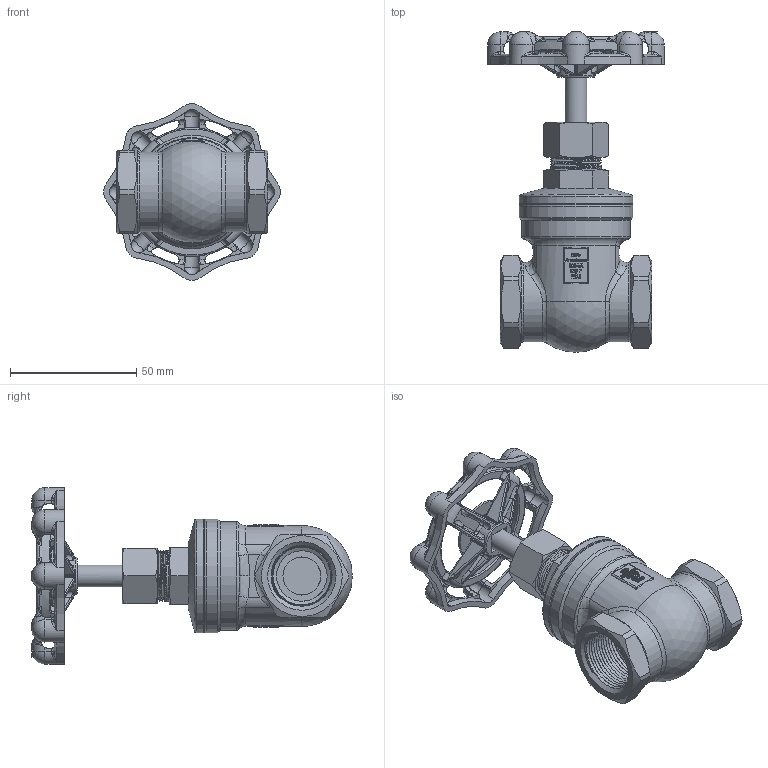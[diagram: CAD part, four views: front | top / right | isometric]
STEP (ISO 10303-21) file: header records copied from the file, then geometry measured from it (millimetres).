
FILE_DESCRIPTION((''),'2;1');
FILE_NAME('K:\Inventor\1 Artikel\8) Absperrschieber\Haitima\508-VA, 2029\508-VA, G0,75\508-VA, G0,75, 3D\508-VA, G0,75, PN15, 3D.stp','2020-02-18T14:27:57',('claudia'),(''),'Autodesk Inventor 2013','Autodesk Inventor 2013','');
FILE_SCHEMA(('AUTOMOTIVE_DESIGN { 1 0 10303 214 1 1 1 1 }'));
Length unit declared in the file: millimetre
Products named in the file (1): Bauteil2
Bounding box: 70 x 127 x 70 mm (x, y, z)
Volume: 74542.4 mm3; surface area: 56097.1 mm2
Topology: 1 solids, 8 shells, 2308 faces, 6176 edges, 3934 vertices
Faces by surface type: bspline 876, plane 866, cylinder 321, torus 117, cone 81, sphere 47
Full cylindrical faces by diameter (mm): 2 x2, 6 x1, 8.7 x4, 9.25 x27, 9.5 x2, 10 x1, 10.4 x1, 11 x1, 12 x1, 12.8 x1, 14 x1, 14.8 x3, 15 x2, 17.4 x1, 18.376 x1, 18.647 x1, 20 x3, 22 x1, 25 x1, 26 x1, 31.5 x2, 31.6 x1, 34 x1, 36.4 x1, 38.9 x1, 41.5 x1, 42 x1, 42.998 x1, 44.998 x1, 45 x1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
Entity records: 132199 total; most frequent: CARTESIAN_POINT 81692, ORIENTED_EDGE 11784, DIRECTION 7960, EDGE_CURVE 5892, VERTEX_POINT 3806, AXIS2_PLACEMENT_3D 2705, VECTOR 2550, LINE 2550
